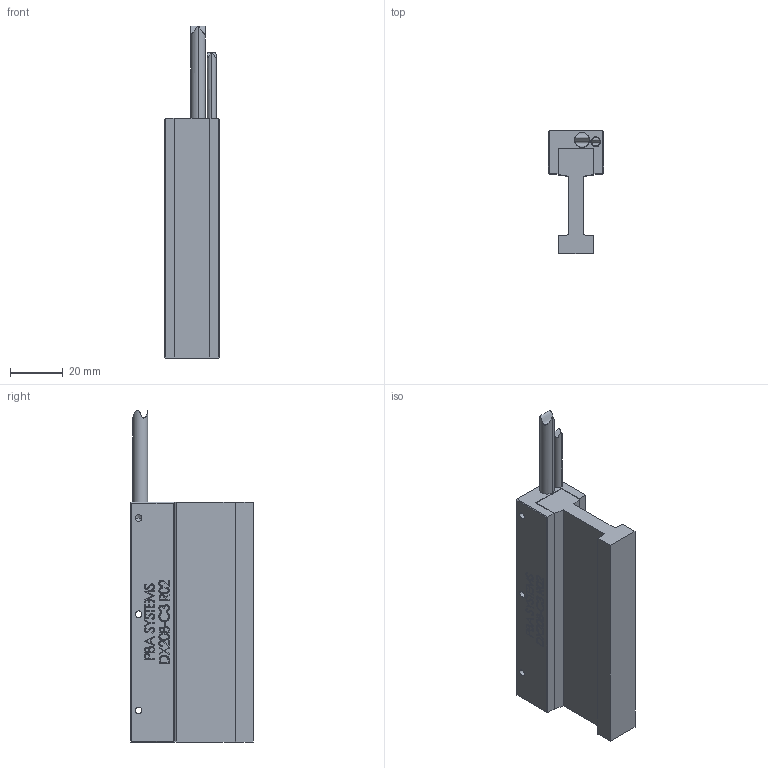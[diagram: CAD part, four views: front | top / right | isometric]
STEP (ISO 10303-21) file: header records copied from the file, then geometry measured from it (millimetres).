
FILE_DESCRIPTION (( 'STEP AP203' ), '1' );
FILE_NAME ('DX20B-C3-000.STEP', '2015-05-28T01:16:17', ( 'PBAsystems' ), ( '' ), 'SwSTEP 2.0', 'SolidWorks 2013', '' );
FILE_SCHEMA (( 'CONFIG_CONTROL_DESIGN' ));
Length unit declared in the file: millimetre
Products named in the file (5): DX20B-C3-000; DX20B-C3-001_CUSTOMER; DX20B-CX-002_C3; CBL_MTR_PWR_SS_7C2C_SA (#2936-1); CBL_MTR_HALL_SS_5C_SA (#2935-1)
Assembly tree (4 placements, depth 2):
  DX20B-C3-000
    DX20B-C3-001_CUSTOMER
    DX20B-CX-002_C3
    CBL_MTR_PWR_SS_7C2C_SA (#2936-1)
    CBL_MTR_HALL_SS_5C_SA (#2935-1)
Bounding box: 21 x 46.55 x 126 mm (x, y, z)
Volume: 52013.3 mm3; surface area: 22502.8 mm2
Topology: 4 solids, 4 shells, 678 faces, 1797 edges, 1186 vertices
Faces by surface type: plane 369, bspline 270, cylinder 27, cone 12
Entity records: 35952 total; most frequent: CARTESIAN_POINT 20474, ORIENTED_EDGE 3570, DIRECTION 2119, EDGE_CURVE 1785, VECTOR 1193, LINE 1193, VERTEX_POINT 1186, EDGE_LOOP 753
